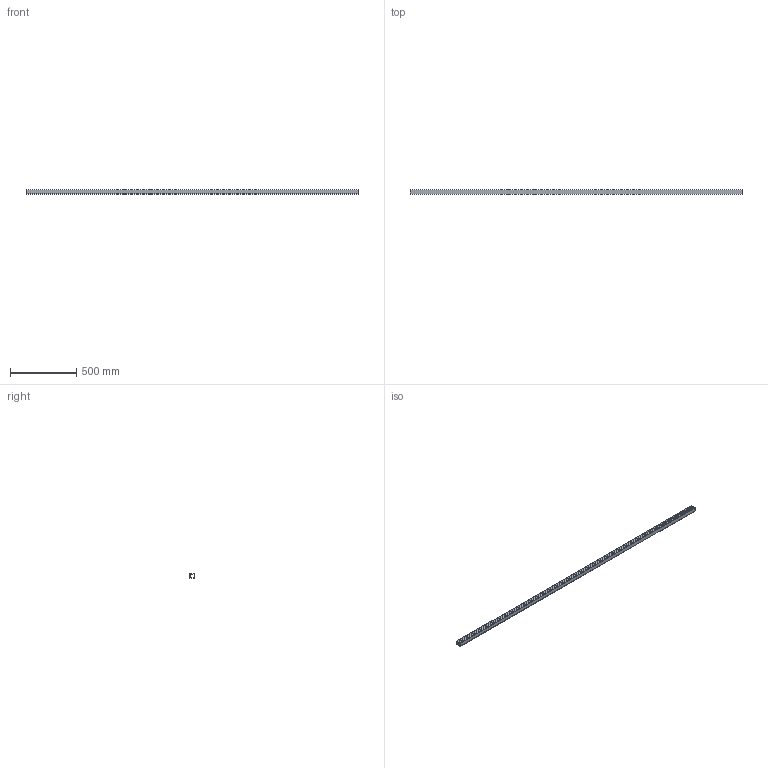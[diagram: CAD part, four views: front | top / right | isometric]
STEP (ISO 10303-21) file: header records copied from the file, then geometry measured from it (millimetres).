
FILE_DESCRIPTION(('STEP AP242'),'1');
FILE_NAME('OPO_65.081.21_volu_3d.stp','2026-01-30T20:49:21',(' '),(' '),'Spatial InterOp 3D',' ',' ');
FILE_SCHEMA(('AP242_MANAGED_MODEL_BASED_3D_ENGINEERING_MIM_LF {1 0 10303 442 1 1 4}'));
Length unit declared in the file: millimetre
Products named in the file (1): 1
Bounding box: 2500 x 37 x 33 mm (x, y, z)
Volume: 829843.7 mm3; surface area: 646690.8 mm2
Topology: 1 solids, 1 shells, 92 faces, 256 edges, 170 vertices
Faces by surface type: plane 72, cylinder 20
Entity records: 3676 total; most frequent: CARTESIAN_POINT 519, ORIENTED_EDGE 512, DIRECTION 482, EDGE_CURVE 256, LINE 216, VECTOR 216, VERTEX_POINT 170, AXIS2_PLACEMENT_3D 133
